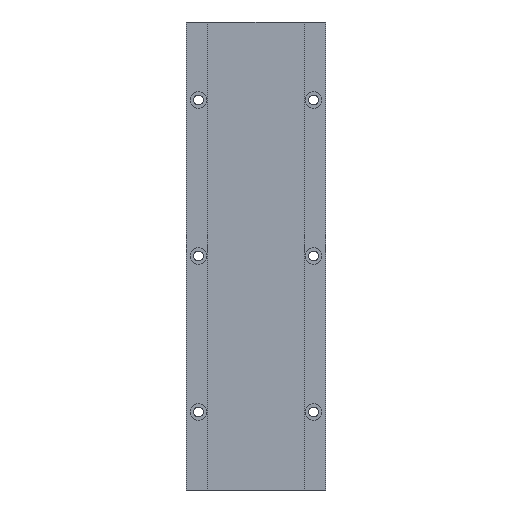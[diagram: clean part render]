
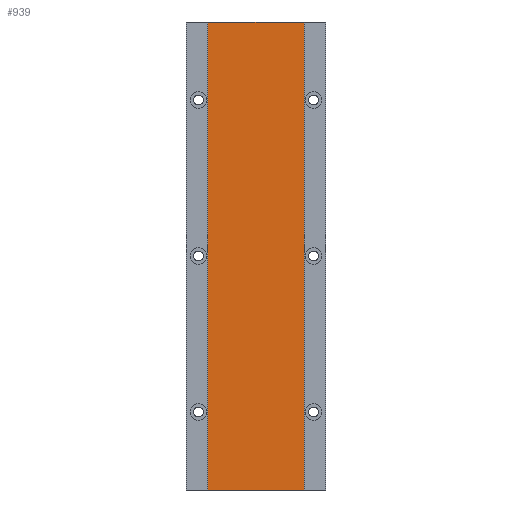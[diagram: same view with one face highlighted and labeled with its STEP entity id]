
A CAD part, left-side view. The second image highlights one B-rep face of the part: STEP entity #939.
In plain terms, the highlighted planar face has unit normal (-1, 0, 0).
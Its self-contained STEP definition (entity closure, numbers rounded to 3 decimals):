
#30 = DIRECTION ( 'NONE',  ( 0., 1., 0. ) ) ;
#32 = ORIENTED_EDGE ( 'NONE', *, *, #689, .F. ) ;
#34 = LINE ( 'NONE', #482, #577 ) ;
#54 = VERTEX_POINT ( 'NONE', #460 ) ;
#128 = VERTEX_POINT ( 'NONE', #688 ) ;
#177 = VERTEX_POINT ( 'NONE', #763 ) ;
#217 = CARTESIAN_POINT ( 'NONE',  ( -7.8, 0., 0. ) ) ;
#296 = PLANE ( 'NONE',  #379 ) ;
#379 = AXIS2_PLACEMENT_3D ( 'NONE', #1166, #794, #1175 ) ;
#386 = CARTESIAN_POINT ( 'NONE',  ( -7.8, 0., 252. ) ) ;
#460 = CARTESIAN_POINT ( 'NONE',  ( -7.8, 26., 252. ) ) ;
#482 = CARTESIAN_POINT ( 'NONE',  ( -7.8, -26., 252. ) ) ;
#525 = CARTESIAN_POINT ( 'NONE',  ( -7.8, -26., 252. ) ) ;
#577 = VECTOR ( 'NONE', #597, 1000. ) ;
#597 = DIRECTION ( 'NONE',  ( 0., 0., -1. ) ) ;
#688 = CARTESIAN_POINT ( 'NONE',  ( -7.8, 26., 0. ) ) ;
#689 = EDGE_CURVE ( 'NONE', #177, #128, #986, .T. ) ;
#700 = DIRECTION ( 'NONE',  ( 0., 0., -1. ) ) ;
#718 = VECTOR ( 'NONE', #30, 1000. ) ;
#757 = EDGE_LOOP ( 'NONE', ( #32, #1249, #840, #1060 ) ) ;
#763 = CARTESIAN_POINT ( 'NONE',  ( -7.8, -26., 0. ) ) ;
#785 = LINE ( 'NONE', #1090, #1190 ) ;
#794 = DIRECTION ( 'NONE',  ( -1., 0., 0. ) ) ;
#795 = VERTEX_POINT ( 'NONE', #525 ) ;
#817 = DIRECTION ( 'NONE',  ( 0., 1., 0. ) ) ;
#840 = ORIENTED_EDGE ( 'NONE', *, *, #981, .T. ) ;
#891 = FACE_OUTER_BOUND ( 'NONE', #757, .T. ) ;
#928 = EDGE_CURVE ( 'NONE', #795, #177, #34, .T. ) ;
#939 = ADVANCED_FACE ( 'NONE', ( #891 ), #296, .T. ) ;
#970 = EDGE_CURVE ( 'NONE', #54, #128, #785, .T. ) ;
#981 = EDGE_CURVE ( 'NONE', #795, #54, #1036, .T. ) ;
#986 = LINE ( 'NONE', #217, #1137 ) ;
#1036 = LINE ( 'NONE', #386, #718 ) ;
#1060 = ORIENTED_EDGE ( 'NONE', *, *, #970, .T. ) ;
#1090 = CARTESIAN_POINT ( 'NONE',  ( -7.8, 26., 252. ) ) ;
#1137 = VECTOR ( 'NONE', #817, 1000. ) ;
#1166 = CARTESIAN_POINT ( 'NONE',  ( -7.8, 0., 252. ) ) ;
#1175 = DIRECTION ( 'NONE',  ( 0., 0., 1. ) ) ;
#1190 = VECTOR ( 'NONE', #700, 1000. ) ;
#1249 = ORIENTED_EDGE ( 'NONE', *, *, #928, .F. ) ;
